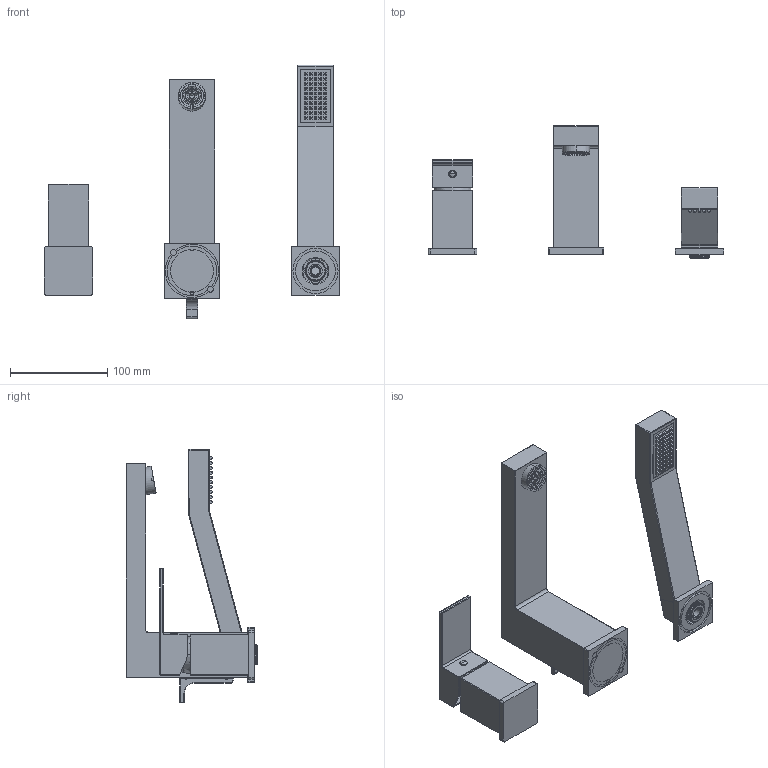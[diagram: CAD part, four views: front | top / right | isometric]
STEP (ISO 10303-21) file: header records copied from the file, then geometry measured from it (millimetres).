
FILE_DESCRIPTION (( 'STEP AP203' ), '1' );
FILE_NAME ('O25-1331-PB_3D.STEP', '2023-01-17T16:31:37', ( '' ), ( '' ), 'SwSTEP 2.0', 'SolidWorks 2022', '' );
FILE_SCHEMA (( 'CONFIG_CONTROL_DESIGN' ));
Length unit declared in the file: millimetre
Products named in the file (2): O25-1331-PB_3D; O25-1331-PB_volume
Assembly tree (1 placements, depth 2):
  O25-1331-PB_3D
    O25-1331-PB_volume
Bounding box: 304 x 135.5 x 260.64 mm (x, y, z)
Volume: 698444 mm3; surface area: 183667.3 mm2
Topology: 15 solids, 15 shells, 1298 faces, 3156 edges, 1938 vertices
Faces by surface type: plane 573, bspline 460, cylinder 192, cone 39, sphere 20, torus 14
Entity records: 45380 total; most frequent: CARTESIAN_POINT 16108, ORIENTED_EDGE 6248, DIRECTION 5497, EDGE_CURVE 3124, VECTOR 2017, LINE 2017, VERTEX_POINT 1938, AXIS2_PLACEMENT_3D 1740
